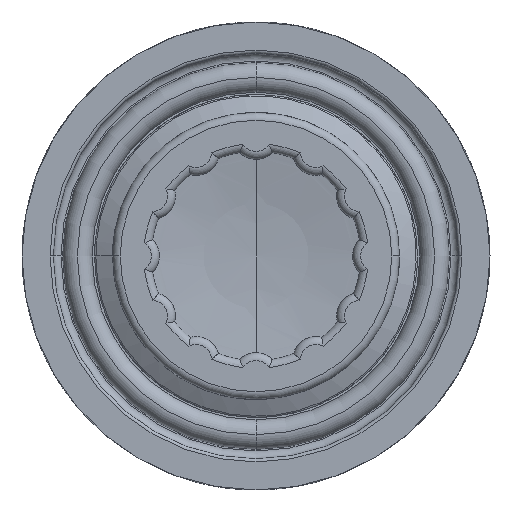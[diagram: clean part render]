
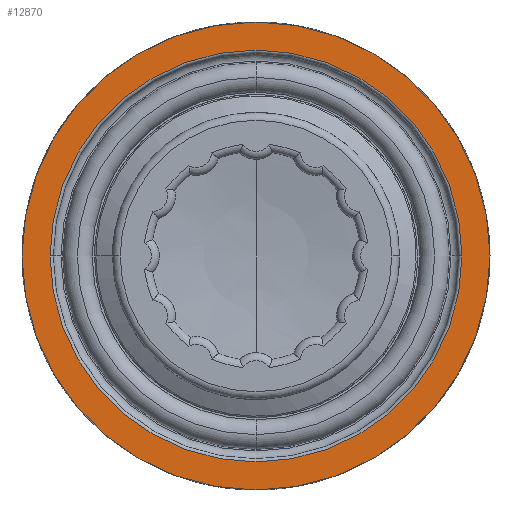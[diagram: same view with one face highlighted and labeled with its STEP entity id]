
A CAD part, left-side view. The second image highlights one B-rep face of the part: STEP entity #12870.
In plain terms, the highlighted planar face has unit normal (-1, 0, 0).
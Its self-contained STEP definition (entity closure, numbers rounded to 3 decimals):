
#12520=CARTESIAN_POINT('',(71.,71.75,22.8));
#12530=DIRECTION('',(-1.,0.,0.));
#12540=DIRECTION('',(0.,1.,0.));
#12550=AXIS2_PLACEMENT_3D('',#12520,#12530,#12540);
#12560=PLANE('',#12550);
#12570=CARTESIAN_POINT('',(71.,57.65,22.8));
#12580=DIRECTION('',(1.,0.,0.));
#12590=DIRECTION('',(0.,1.,0.));
#12600=AXIS2_PLACEMENT_3D('',#12570,#12580,#12590);
#12610=CIRCLE('',#12600,13.2);
#12620=CARTESIAN_POINT('',(71.,70.85,22.8));
#12630=VERTEX_POINT('',#12620);
#12640=CARTESIAN_POINT('',(71.,44.45,22.8));
#12650=VERTEX_POINT('',#12640);
#12660=EDGE_CURVE('',#12630,#12650,#12610,.T.);
#12670=ORIENTED_EDGE('',*,*,#12660,.T.);
#12680=EDGE_CURVE('',#12650,#12630,#12610,.T.);
#12690=ORIENTED_EDGE('',*,*,#12680,.T.);
#12700=EDGE_LOOP('',(#12690,#12670));
#12710=FACE_BOUND('',#12700,.T.);
#12720=CARTESIAN_POINT('',(71.,57.65,22.8));
#12730=DIRECTION('',(-1.,0.,0.));
#12740=DIRECTION('',(0.,1.,0.));
#12750=AXIS2_PLACEMENT_3D('',#12720,#12730,#12740);
#12760=CIRCLE('',#12750,15.);
#12770=CARTESIAN_POINT('',(71.,72.65,22.8));
#12780=VERTEX_POINT('',#12770);
#12790=CARTESIAN_POINT('',(71.,42.65,22.8));
#12800=VERTEX_POINT('',#12790);
#12810=EDGE_CURVE('',#12780,#12800,#12760,.T.);
#12820=ORIENTED_EDGE('',*,*,#12810,.T.);
#12830=EDGE_CURVE('',#12800,#12780,#12760,.T.);
#12840=ORIENTED_EDGE('',*,*,#12830,.T.);
#12850=EDGE_LOOP('',(#12840,#12820));
#12860=FACE_OUTER_BOUND('',#12850,.T.);
#12870=ADVANCED_FACE('',(#12710,#12860),#12560,.T.);
